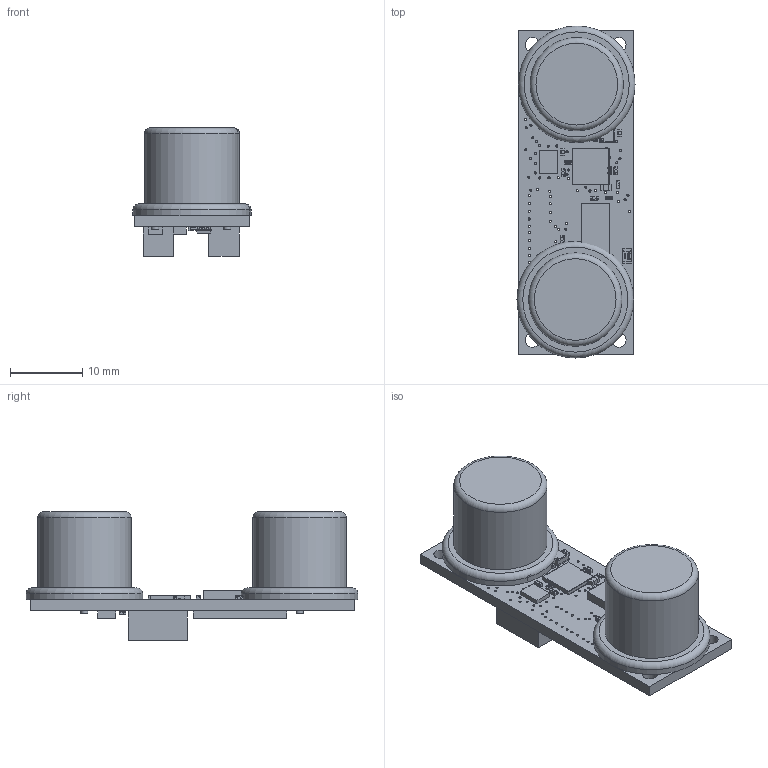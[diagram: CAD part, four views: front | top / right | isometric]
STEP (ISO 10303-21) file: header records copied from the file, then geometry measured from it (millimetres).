
FILE_DESCRIPTION(/* description */ (''),/* implementation_level */ '2;1');
FILE_NAME(/* name */ 'C:/Users/priba/Downloads/mrm-us-b.step',/* time_stamp */ '2021-02-11T22:08:14+01:00',/* author */ (''),/* organization */ (''),/* preprocessor_version */ 'ST-DEVELOPER v18.1',/* originating_system */ 'Autodesk Translation Framework v9.7.1.1290',/* authorisation */ '');
FILE_SCHEMA (('AUTOMOTIVE_DESIGN { 1 0 10303 214 3 1 1 }'));
Length unit declared in the file: millimetre
Products named in the file (21): mrm-us-b; Board; Packages; 1X05_PINLESS; 255400PT160ROX; ANGOSENSE_CS100A; C0402; CHIPLED_0402; DFN-8-2X3; EPSON_TSX-3225; FOX_FC4SDCBGM8.0; JST_BM04B-GHK-TBT; QFN50P400X400X60-28N; R0402; R0603; R0805; SON65P300X300X90-9N; SOP50P310X90-8N; Body; PinsArrayLR; SOT-23
Assembly tree (40 placements, depth 4):
  mrm-us-b
    Board
    Packages
      1X05_PINLESS
      255400PT160ROX  x2
      ANGOSENSE_CS100A
      C0402  x15
      CHIPLED_0402
      DFN-8-2X3
      EPSON_TSX-3225
      FOX_FC4SDCBGM8.0
      JST_BM04B-GHK-TBT  x2
      QFN50P400X400X60-28N
      R0402  x5
      R0603
      R0805
      SON65P300X300X90-9N
      SOP50P310X90-8N
        Body
        PinsArrayLR
      SOT-23
Bounding box: 16.41 x 46.1 x 17.81 mm (x, y, z)
Volume: 4935.4 mm3; surface area: 4506 mm2
Topology: 72 solids, 72 shells, 2356 faces, 6214 edges, 3915 vertices
Faces by surface type: plane 1160, cylinder 804, sphere 240, bspline 148, torus 4
Full cylindrical faces by diameter (mm): 0.287 x1, 0.3 x116, 1 x4, 1.016 x5, 1.2 x4, 2 x4, 12.96 x2, 16.2 x2
Entity records: 44315 total; most frequent: CARTESIAN_POINT 10427, ORIENTED_EDGE 6866, DIRECTION 6102, EDGE_CURVE 3433, LINE 2220, VECTOR 2220, VERTEX_POINT 2213, AXIS2_PLACEMENT_3D 1941
